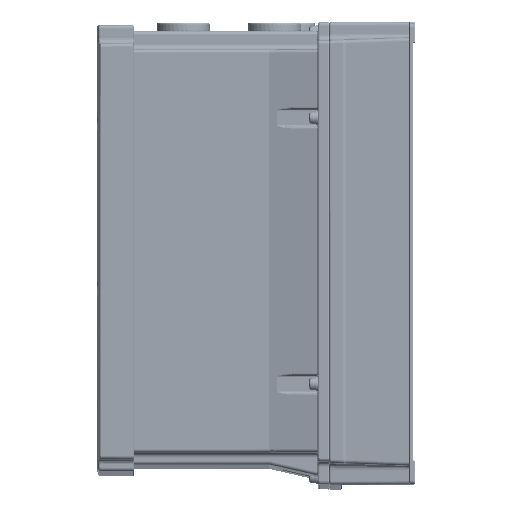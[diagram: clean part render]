
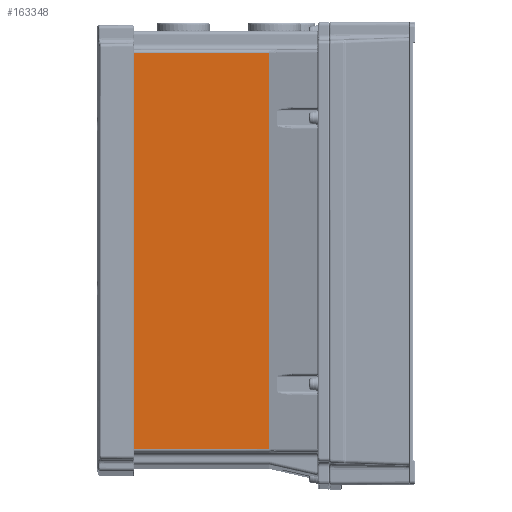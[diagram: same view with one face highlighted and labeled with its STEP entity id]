
A CAD part, left-side view. The second image highlights one B-rep face of the part: STEP entity #163348.
In plain terms, the highlighted planar face has unit normal (-1, 0, 0).
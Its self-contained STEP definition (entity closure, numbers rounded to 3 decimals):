
#3410 = CARTESIAN_POINT ( 'NONE',  ( -77., 118.6, 79. ) ) ;
#3430 = CARTESIAN_POINT ( 'NONE',  ( -77., 118.6, -11. ) ) ;
#3497 = CARTESIAN_POINT ( 'NONE',  ( -77., 122.8, -54.5 ) ) ;
#3547 = CARTESIAN_POINT ( 'NONE',  ( -77., 118.6, -29. ) ) ;
#3591 = CARTESIAN_POINT ( 'NONE',  ( -77., 118.6, 61. ) ) ;
#3719 = CARTESIAN_POINT ( 'NONE',  ( -77., 118.1, -54.5 ) ) ;
#35263 = CARTESIAN_POINT ( 'NONE',  ( -77., 33.221, 108.601 ) ) ;
#35296 = CARTESIAN_POINT ( 'NONE',  ( -77., 122.8, 108.601 ) ) ;
#35299 = CARTESIAN_POINT ( 'NONE',  ( -77., 122.8, 79. ) ) ;
#35302 = CARTESIAN_POINT ( 'NONE',  ( -77., 122.8, 61. ) ) ;
#35334 = CARTESIAN_POINT ( 'NONE',  ( -77., 122.8, -11. ) ) ;
#35352 = CARTESIAN_POINT ( 'NONE',  ( -77., 122.8, -29. ) ) ;
#39934 = EDGE_CURVE ( 'NONE', #130287, #130313, #211024, .T. ) ;
#39990 = EDGE_CURVE ( 'NONE', #130272, #130312, #210854, .T. ) ;
#40011 = EDGE_CURVE ( 'NONE', #140448, #140386, #210986, .T. ) ;
#40050 = EDGE_CURVE ( 'NONE', #140438, #130272, #210867, .T. ) ;
#40059 = EDGE_CURVE ( 'NONE', #130191, #139867, #210877, .T. ) ;
#40070 = EDGE_CURVE ( 'NONE', #130313, #130191, #210924, .T. ) ;
#40095 = EDGE_CURVE ( 'NONE', #140395, #130275, #210942, .T. ) ;
#40117 = EDGE_CURVE ( 'NONE', #130275, #140493, #210799, .T. ) ;
#40125 = EDGE_CURVE ( 'NONE', #140493, #140438, #211178, .T. ) ;
#40132 = EDGE_CURVE ( 'NONE', #130312, #140448, #211155, .T. ) ;
#40138 = EDGE_CURVE ( 'NONE', #140386, #130287, #211204, .T. ) ;
#40491 = EDGE_CURVE ( 'NONE', #139867, #139885, #205964, .T. ) ;
#40667 = EDGE_CURVE ( 'NONE', #139885, #140569, #205815, .T. ) ;
#40681 = EDGE_CURVE ( 'NONE', #140569, #140395, #205821, .T. ) ;
#76232 = DIRECTION ( 'NONE',  ( 0., 0., -1. ) ) ;
#76238 = PLANE ( 'NONE',  #227043 ) ;
#76285 = DIRECTION ( 'NONE',  ( 1., 0., 0. ) ) ;
#76309 = CARTESIAN_POINT ( 'NONE',  ( -77., 33., -153.72 ) ) ;
#130191 = VERTEX_POINT ( 'NONE', #35263 ) ;
#130272 = VERTEX_POINT ( 'NONE', #35334 ) ;
#130275 = VERTEX_POINT ( 'NONE', #35352 ) ;
#130287 = VERTEX_POINT ( 'NONE', #35299 ) ;
#130312 = VERTEX_POINT ( 'NONE', #35302 ) ;
#130313 = VERTEX_POINT ( 'NONE', #35296 ) ;
#134421 = CARTESIAN_POINT ( 'NONE',  ( -77., 33., -108.601 ) ) ;
#134423 = DIRECTION ( 'NONE',  ( 0., 1., 0. ) ) ;
#135170 = CARTESIAN_POINT ( 'NONE',  ( -77., 118.1, 465.848 ) ) ;
#135195 = DIRECTION ( 'NONE',  ( 0., 0., 1. ) ) ;
#135304 = CARTESIAN_POINT ( 'NONE',  ( -77., 285.646, -54.5 ) ) ;
#135322 = DIRECTION ( 'NONE',  ( 0., 1., 0. ) ) ;
#139867 = VERTEX_POINT ( 'NONE', #150357 ) ;
#139885 = VERTEX_POINT ( 'NONE', #150350 ) ;
#140386 = VERTEX_POINT ( 'NONE', #3410 ) ;
#140395 = VERTEX_POINT ( 'NONE', #3497 ) ;
#140438 = VERTEX_POINT ( 'NONE', #3430 ) ;
#140448 = VERTEX_POINT ( 'NONE', #3591 ) ;
#140493 = VERTEX_POINT ( 'NONE', #3547 ) ;
#140569 = VERTEX_POINT ( 'NONE', #3719 ) ;
#141397 = CARTESIAN_POINT ( 'NONE',  ( -77., 122.8, -153.72 ) ) ;
#141399 = DIRECTION ( 'NONE',  ( 0., 0., 1. ) ) ;
#141632 = CARTESIAN_POINT ( 'NONE',  ( -77., 122.8, -153.72 ) ) ;
#141750 = DIRECTION ( 'NONE',  ( 0., 0., 1. ) ) ;
#141831 = DIRECTION ( 'NONE',  ( 0., 0., 1. ) ) ;
#141871 = CARTESIAN_POINT ( 'NONE',  ( -77., 118.6, -153.72 ) ) ;
#142029 = CARTESIAN_POINT ( 'NONE',  ( -77., 33., -11. ) ) ;
#142068 = DIRECTION ( 'NONE',  ( 0., 0., -1. ) ) ;
#142079 = DIRECTION ( 'NONE',  ( 0., 1., 0. ) ) ;
#142085 = CARTESIAN_POINT ( 'NONE',  ( -77., 33.221, 108.601 ) ) ;
#142099 = CARTESIAN_POINT ( 'NONE',  ( -77., 33., 108.601 ) ) ;
#142117 = DIRECTION ( 'NONE',  ( 0., -1., 0. ) ) ;
#142211 = DIRECTION ( 'NONE',  ( 0., 0., 1. ) ) ;
#142249 = CARTESIAN_POINT ( 'NONE',  ( -77., 122.8, -153.72 ) ) ;
#142290 = CARTESIAN_POINT ( 'NONE',  ( -77., 33., -29. ) ) ;
#142306 = CARTESIAN_POINT ( 'NONE',  ( -77., 118.6, -153.72 ) ) ;
#142334 = DIRECTION ( 'NONE',  ( 0., -1., 0. ) ) ;
#142359 = DIRECTION ( 'NONE',  ( 0., 0., 1. ) ) ;
#142362 = DIRECTION ( 'NONE',  ( 0., -1., 0. ) ) ;
#142382 = CARTESIAN_POINT ( 'NONE',  ( -77., 33., 61. ) ) ;
#142386 = CARTESIAN_POINT ( 'NONE',  ( -77., 33., 79. ) ) ;
#142397 = DIRECTION ( 'NONE',  ( 0., 1., 0. ) ) ;
#150350 = CARTESIAN_POINT ( 'NONE',  ( -77., 118.1, -108.601 ) ) ;
#150357 = CARTESIAN_POINT ( 'NONE',  ( -77., 33.221, -108.601 ) ) ;
#163348 = ADVANCED_FACE ( 'NONE', ( #178882 ), #76238, .F. ) ;
#178882 = FACE_OUTER_BOUND ( 'NONE', #204234, .T. ) ;
#185572 = ORIENTED_EDGE ( 'NONE', *, *, #40095, .F. ) ;
#185573 = ORIENTED_EDGE ( 'NONE', *, *, #39934, .F. ) ;
#185616 = ORIENTED_EDGE ( 'NONE', *, *, #40070, .F. ) ;
#185625 = ORIENTED_EDGE ( 'NONE', *, *, #40132, .F. ) ;
#185626 = ORIENTED_EDGE ( 'NONE', *, *, #40667, .F. ) ;
#185634 = ORIENTED_EDGE ( 'NONE', *, *, #40681, .F. ) ;
#185639 = ORIENTED_EDGE ( 'NONE', *, *, #40011, .F. ) ;
#185651 = ORIENTED_EDGE ( 'NONE', *, *, #39990, .F. ) ;
#185652 = ORIENTED_EDGE ( 'NONE', *, *, #40050, .F. ) ;
#185654 = ORIENTED_EDGE ( 'NONE', *, *, #40059, .F. ) ;
#185656 = ORIENTED_EDGE ( 'NONE', *, *, #40117, .F. ) ;
#185657 = ORIENTED_EDGE ( 'NONE', *, *, #40138, .F. ) ;
#185668 = ORIENTED_EDGE ( 'NONE', *, *, #40491, .F. ) ;
#185675 = ORIENTED_EDGE ( 'NONE', *, *, #40125, .F. ) ;
#204234 = EDGE_LOOP ( 'NONE', ( #185572, #185634, #185626, #185668, #185654, #185616, #185573, #185657, #185639, #185625, #185651, #185652, #185675, #185656 ) ) ;
#205815 = LINE ( 'NONE', #135170, #205929 ) ;
#205821 = LINE ( 'NONE', #135304, #206355 ) ;
#205929 = VECTOR ( 'NONE', #135195, 1000. ) ;
#205964 = LINE ( 'NONE', #134421, #206008 ) ;
#206008 = VECTOR ( 'NONE', #134423, 1000. ) ;
#206355 = VECTOR ( 'NONE', #135322, 1000. ) ;
#210799 = LINE ( 'NONE', #142290, #210871 ) ;
#210854 = LINE ( 'NONE', #141632, #210913 ) ;
#210860 = VECTOR ( 'NONE', #141831, 1000. ) ;
#210867 = LINE ( 'NONE', #142029, #210937 ) ;
#210871 = VECTOR ( 'NONE', #142334, 1000. ) ;
#210877 = LINE ( 'NONE', #142085, #210920 ) ;
#210913 = VECTOR ( 'NONE', #141750, 1000. ) ;
#210920 = VECTOR ( 'NONE', #142068, 1000. ) ;
#210924 = LINE ( 'NONE', #142099, #211018 ) ;
#210937 = VECTOR ( 'NONE', #142079, 1000. ) ;
#210942 = LINE ( 'NONE', #142249, #210982 ) ;
#210982 = VECTOR ( 'NONE', #142211, 1000. ) ;
#210986 = LINE ( 'NONE', #141871, #210860 ) ;
#211018 = VECTOR ( 'NONE', #142117, 1000. ) ;
#211024 = LINE ( 'NONE', #141397, #211028 ) ;
#211028 = VECTOR ( 'NONE', #141399, 1000. ) ;
#211151 = VECTOR ( 'NONE', #142397, 1000. ) ;
#211155 = LINE ( 'NONE', #142382, #211211 ) ;
#211178 = LINE ( 'NONE', #142306, #211199 ) ;
#211199 = VECTOR ( 'NONE', #142359, 1000. ) ;
#211204 = LINE ( 'NONE', #142386, #211151 ) ;
#211211 = VECTOR ( 'NONE', #142362, 1000. ) ;
#227043 = AXIS2_PLACEMENT_3D ( 'NONE', #76309, #76285, #76232 ) ;
